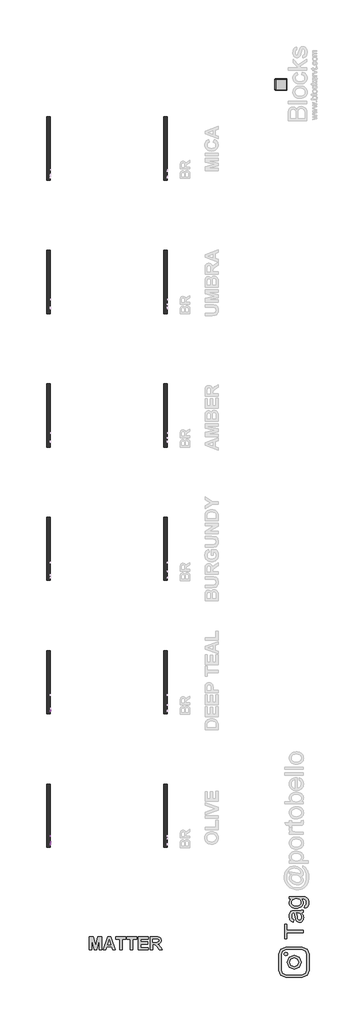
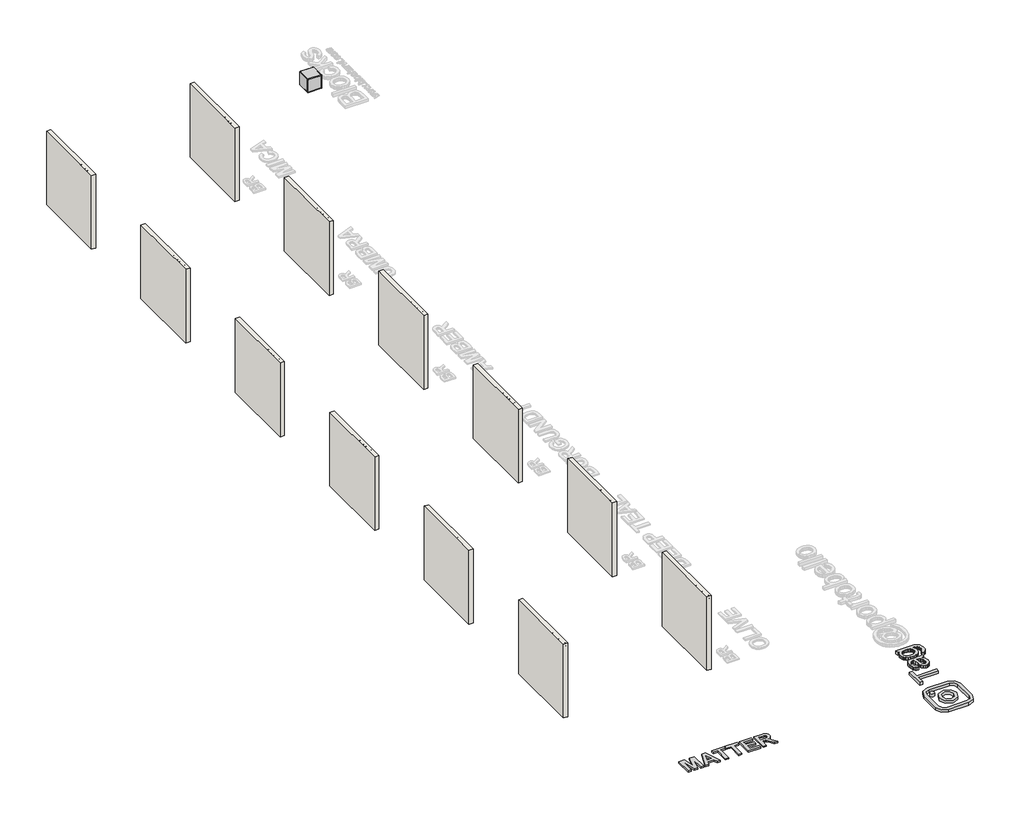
# One storey, part 1 of 10: 12 walls, 7 proxies, 1 furniture element.
"""IFC4 building model written with IfcOpenShell, lengths in millimetres."""

from ifc_helpers import new_model, si_unit, frame, origin, origin_with_axes, place, context, project, spatial, polyline, outline, extrude, transform, mapped, element, save
from components import generic_models_d67f6705, branco_22256ad2

model = new_model("IFC4")

# Units and contexts
model_context = context("Model", 3, world=origin())
ifc_project = project(units=[si_unit("LENGTHUNIT", "METRE", prefix="MILLI")], contexts=[model_context])

# Site, building, storey
site = spatial("IfcSite", under=ifc_project)
building = spatial("IfcBuilding", under=site)
storey = spatial("IfcBuildingStorey", under=building, Name="PORTOBELLO - SHOWROOM", Elevation=0.0)

# Proxies
placement = place(None, origin())
generic_models_shape = generic_models_d67f6705(model_context)
element("IfcBuildingElementProxy", 1, Name="Blks_Instagram1 : Único", ObjectType="Blks_Instagram1 : Único", at=placement, inside=storey, context=model_context, shape_type="MappedRepresentation", body=[
    mapped(generic_models_shape, transform((-1693.7078891, -12631.2406298, 0.0), x_axis=(-1.0, 0.0, 0.0), y_axis=(0.0, -1.0, 0.0), z_axis=(0.0, 0.0, 1.0))),
])
element("IfcBuildingElementProxy", 2, Name="10mm Arial", ObjectType="10mm Arial", at=placement, inside=storey, context=model_context, shape_type="SweptSolid", body=[
    extrude(outline(polyline([(-1934.9777985, 2518.4745677), (-1934.9777985, 2618.9308778), (-1900.3233145, 2618.9308778), (-1882.3951986, 2617.4838753), (-1867.6308679, 2610.2979137), (-1855.7360167, 2593.1300872), (-1851.7874166, 2569.242283), (-1854.4606925, 2548.9719851), (-1861.327823, 2534.3425444), (-1870.5003475, 2525.2313336), (-1882.5055632, 2520.1913503), (-1898.6555828, 2518.4745677), (-1934.9777985, 2518.4745677)]), holes=[polyline([(-1922.4207597, 2531.0316064), (-1900.2006872, 2531.0316064), (-1884.0384049, 2532.8464909), (-1874.7187277, 2537.9723134), (-1867.0790449, 2550.443513), (-1864.3444554, 2569.4384867), (-1865.684159, 2583.1236969), (-1869.7032698, 2593.2281891), (-1882.7385552, 2604.3627508), (-1900.5440437, 2606.373839), (-1922.4207597, 2606.373839), (-1922.4207597, 2531.0316064)])]), frame((-12116.0080774, 0.0, 0.0), z_axis=(1.0, 0.0, 0.0), x_axis=(0.0, 1.0, 0.0)), (0.0, 0.0, 1.0), 20.0),
    extrude(outline(polyline([(-1784.4404861, 2540.4493855), (-1772.128702, 2538.8797557), (-1776.5647457, 2529.602998), (-1783.6434084, 2522.6684224), (-1793.2052746, 2518.345809), (-1805.0909287, 2516.9049378), (-1819.8246026, 2519.391207), (-1831.1614994, 2526.8500144), (-1838.3903806, 2538.7969822), (-1840.8000077, 2554.7477324), (-1838.3658552, 2571.2349771), (-1831.0633976, 2583.5651553), (-1819.8797849, 2591.253889), (-1805.8021672, 2593.8168003), (-1792.1629423, 2591.2600204), (-1781.2644382, 2583.5896808), (-1774.1183304, 2571.2840281), (-1771.7362945, 2554.8213088), (-1771.8098709, 2551.4367944), (-1828.2429689, 2551.4367944), (-1826.0693995, 2542.0374095), (-1821.0202191, 2535.1273593), (-1813.7330899, 2530.8783223), (-1804.8456741, 2529.4619766), (-1792.53389, 2532.0862015), (-1784.4404861, 2540.4493855)]), holes=[polyline([(-1828.2429689, 2563.9938332), (-1784.2933333, 2563.9938332), (-1789.3210539, 2575.3736496), (-1796.6419056, 2579.7882335), (-1805.8512182, 2581.2597615), (-1821.3145247, 2576.5631347), (-1826.1797641, 2571.0724959), (-1828.2429689, 2563.9938332)])]), frame((-12116.0080774, 0.0, 0.0), z_axis=(1.0, 0.0, 0.0), x_axis=(0.0, 1.0, 0.0)), (0.0, 0.0, 1.0), 20.0),
    extrude(outline(polyline([(-1707.5286236, 2540.4493855), (-1695.2168395, 2538.8797557), (-1699.6528832, 2529.602998), (-1706.7315459, 2522.6684224), (-1716.2934121, 2518.345809), (-1728.1790663, 2516.9049378), (-1742.9127402, 2519.391207), (-1754.249637, 2526.8500144), (-1761.4785182, 2538.7969822), (-1763.8881453, 2554.7477324), (-1761.4539927, 2571.2349771), (-1754.1515351, 2583.5651553), (-1742.9679225, 2591.253889), (-1728.8903048, 2593.8168003), (-1715.2510798, 2591.2600204), (-1704.3525757, 2583.5896808), (-1697.206468, 2571.2840281), (-1694.824432, 2554.8213088), (-1694.8980084, 2551.4367944), (-1751.3311065, 2551.4367944), (-1749.157537, 2542.0374095), (-1744.1083567, 2535.1273593), (-1736.8212275, 2530.8783223), (-1727.9338116, 2529.4619766), (-1715.6220275, 2532.0862015), (-1707.5286236, 2540.4493855)]), holes=[polyline([(-1751.3311065, 2563.9938332), (-1707.3814708, 2563.9938332), (-1712.4091914, 2575.3736496), (-1719.7300431, 2579.7882335), (-1728.9393557, 2581.2597615), (-1744.4026622, 2576.5631347), (-1749.2679016, 2571.0724959), (-1751.3311065, 2563.9938332)])]), frame((-12116.0080774, 0.0, 0.0), z_axis=(1.0, 0.0, 0.0), x_axis=(0.0, 1.0, 0.0)), (0.0, 0.0, 1.0), 20.0),
    extrude(outline(polyline([(-1682.2673933, 2490.2212304), (-1682.2673933, 2592.2471704), (-1669.7103545, 2592.2471704), (-1669.7103545, 2579.9353863), (-1661.0283394, 2590.3464468), (-1649.3051665, 2593.8168003), (-1633.3881388, 2588.9607579), (-1622.9893411, 2575.2755477), (-1619.4821994, 2555.9249548), (-1623.4430622, 2535.5810804), (-1634.945506, 2521.724192), (-1650.8257454, 2516.9049378), (-1661.7518407, 2520.1300366), (-1669.7103545, 2528.2847542), (-1669.7103545, 2490.2212304), (-1682.2673933, 2490.2212304)]), holes=[polyline([(-1669.7103545, 2554.7722579), (-1668.3522568, 2543.5150688), (-1664.2779637, 2535.6423941), (-1658.2661588, 2531.007081), (-1651.0955255, 2529.4619766), (-1643.8083964, 2531.0622633), (-1637.6433072, 2535.8631233), (-1633.4402555, 2544.0239722), (-1632.0392382, 2555.7042256), (-1633.4065329, 2566.900101), (-1637.5084172, 2574.8831403), (-1643.5110251, 2579.6656062), (-1650.5804907, 2581.2597615), (-1657.6775476, 2579.5644386), (-1663.9100817, 2574.4784701), (-1668.2602863, 2566.1612713), (-1669.7103545, 2554.7722579)])]), frame((-12116.0080774, 0.0, 0.0), z_axis=(1.0, 0.0, 0.0), x_axis=(0.0, 1.0, 0.0)), (0.0, 0.0, 1.0), 20.0),
    extrude(outline(polyline([(-1539.4310773, 2518.4745677), (-1539.4310773, 2606.373839), (-1572.393304, 2606.373839), (-1572.393304, 2618.9308778), (-1493.9118117, 2618.9308778), (-1493.9118117, 2606.373839), (-1526.8740385, 2606.373839), (-1526.8740385, 2518.4745677), (-1539.4310773, 2518.4745677)])), frame((-12116.0080774, 0.0, 0.0), z_axis=(1.0, 0.0, 0.0), x_axis=(0.0, 1.0, 0.0)), (0.0, 0.0, 1.0), 20.0),
    extrude(outline(polyline([(-1429.7041408, 2540.4493855), (-1417.3923567, 2538.8797557), (-1421.8284005, 2529.602998), (-1428.9070632, 2522.6684224), (-1438.4689294, 2518.345809), (-1450.3545835, 2516.9049378), (-1465.0882574, 2519.391207), (-1476.4251542, 2526.8500144), (-1483.6540354, 2538.7969822), (-1486.0636625, 2554.7477324), (-1483.62951, 2571.2349771), (-1476.3270524, 2583.5651553), (-1465.1434397, 2591.253889), (-1451.065822, 2593.8168003), (-1437.4265971, 2591.2600204), (-1426.5280929, 2583.5896808), (-1419.3819852, 2571.2840281), (-1416.9999493, 2554.8213088), (-1417.0735257, 2551.4367944), (-1473.5066237, 2551.4367944), (-1471.3330543, 2542.0374095), (-1466.2838739, 2535.1273593), (-1458.9967447, 2530.8783223), (-1450.1093288, 2529.4619766), (-1437.7975447, 2532.0862015), (-1429.7041408, 2540.4493855)]), holes=[polyline([(-1473.5066237, 2563.9938332), (-1429.556988, 2563.9938332), (-1434.5847086, 2575.3736496), (-1441.9055603, 2579.7882335), (-1451.114873, 2581.2597615), (-1466.5781795, 2576.5631347), (-1471.4434189, 2571.0724959), (-1473.5066237, 2563.9938332)])]), frame((-12116.0080774, 0.0, 0.0), z_axis=(1.0, 0.0, 0.0), x_axis=(0.0, 1.0, 0.0)), (0.0, 0.0, 1.0), 20.0),
    extrude(outline(polyline([(-1357.3540151, 2527.8923467), (-1369.5309092, 2519.3820099), (-1382.9831275, 2516.9049378), (-1393.4769614, 2518.3948599), (-1401.2178117, 2522.8646261), (-1405.9910806, 2529.6520489), (-1407.5821702, 2538.0949407), (-1405.1786745, 2548.0277546), (-1398.8633669, 2555.2382417), (-1390.0709872, 2559.3585201), (-1379.2062056, 2561.246981), (-1357.4275915, 2565.563463), (-1357.3540151, 2568.3593662), (-1360.8121059, 2577.6299925), (-1374.6935198, 2581.2597615), (-1387.3977114, 2578.8440031), (-1393.4555016, 2570.2723526), (-1406.0125404, 2571.8419824), (-1400.5801496, 2584.1047156), (-1389.6417916, 2591.2906772), (-1373.0748391, 2593.8168003), (-1357.8567872, 2591.5849828), (-1349.2606112, 2585.9809138), (-1345.410113, 2577.4583142), (-1344.7969764, 2566.4709053), (-1344.7969764, 2550.8481832), (-1344.1593142, 2529.0327809), (-1341.6577167, 2518.4745677), (-1354.2147554, 2518.4745677), (-1357.3540151, 2527.8923467)]), holes=[polyline([(-1357.3540151, 2553.0064243), (-1377.6120503, 2549.1559261), (-1388.4155182, 2547.1203124), (-1393.3083488, 2543.8093744), (-1395.0251314, 2538.9778575), (-1391.2849978, 2532.1843033), (-1380.3098516, 2529.4619766), (-1367.6056601, 2532.4663462), (-1359.4141543, 2539.738147), (-1357.4275915, 2549.4502317), (-1357.3540151, 2553.0064243)])]), frame((-12116.0080774, 0.0, 0.0), z_axis=(1.0, 0.0, 0.0), x_axis=(0.0, 1.0, 0.0)), (0.0, 0.0, 1.0), 20.0),
    extrude(outline(polyline([(-12096.0080774, -1314.9740093), (-12096.0080774, -1327.531048), (-12116.0080774, -1327.531048), (-12116.0080774, -1314.9740093), (-12096.0080774, -1314.9740093)])), frame((0.0, 0.0, 2518.4745677), z_axis=(0.0, 0.0, 1.0), x_axis=(1.0, 0.0, 0.0)), (0.0, 0.0, 1.0), 100.4563101),
])
element("IfcBuildingElementProxy", 3, Name="10mm Arial", ObjectType="10mm Arial", at=placement, inside=storey, context=model_context, shape_type="SweptSolid", body=[
    extrude(outline(polyline([(-7639.686688, 2567.3783476), (-7636.3389619, 2589.5922887), (-7626.2957834, 2606.3983645), (-7610.9612356, 2616.9749719), (-7591.7394013, 2620.5005077), (-7578.5630945, 2618.8450387), (-7566.7479511, 2613.8786317), (-7556.9377646, 2605.9507747), (-7549.7763284, 2595.4109556), (-7545.3985327, 2582.7680777), (-7543.9392674, 2568.5310445), (-7545.4751747, 2554.1039389), (-7550.0828967, 2541.2832514), (-7557.5079817, 2530.7250381), (-7567.4959778, 2523.0853553), (-7579.2099537, 2518.4500422), (-7591.8129777, 2516.9049378), (-7605.1916196, 2518.6125234), (-7617.0742081, 2523.7352802), (-7626.8598691, 2531.81029), (-7633.9477289, 2542.3746346), (-7639.686688, 2567.3783476)]), holes=[polyline([(-7627.1296493, 2567.2557202), (-7624.6188546, 2551.5410277), (-7617.0864708, 2539.5664687), (-7605.7649024, 2531.9880996), (-7591.8865541, 2529.4619766), (-7577.8058707, 2532.0126251), (-7566.4659082, 2539.6645706), (-7558.9887067, 2552.0070115), (-7556.4963062, 2568.6291463), (-7560.7637373, 2589.3531654), (-7573.234937, 2603.0751638), (-7591.6658249, 2607.9434689), (-7605.1732255, 2605.5982212), (-7616.6572751, 2598.562478), (-7624.5115557, 2586.0452931), (-7627.1296493, 2567.2557202)])]), frame((-12116.0080774, 0.0, 0.0), z_axis=(1.0, 0.0, 0.0), x_axis=(0.0, 1.0, 0.0)), (0.0, 0.0, 1.0), 20.0),
    extrude(outline(polyline([(-12096.0080774, -7515.6859302), (-12096.0080774, -7528.2429689), (-12116.0080774, -7528.2429689), (-12116.0080774, -7515.6859302), (-12096.0080774, -7515.6859302)])), frame((0.0, 0.0, 2518.4745677), z_axis=(0.0, 0.0, 1.0), x_axis=(1.0, 0.0, 0.0)), (0.0, 0.0, 1.0), 100.4563101),
    extrude(outline(polyline([(-12096.0080774, -7484.2933333), (-12096.0080774, -7496.850372), (-12116.0080774, -7496.850372), (-12116.0080774, -7484.2933333), (-12096.0080774, -7484.2933333)])), frame((0.0, 0.0, 2518.4745677), z_axis=(0.0, 0.0, 1.0), x_axis=(1.0, 0.0, 0.0)), (0.0, 0.0, 1.0), 73.7726028),
    extrude(outline(polyline([(-12096.0080774, -7484.2933333), (-12096.0080774, -7496.850372), (-12116.0080774, -7496.850372), (-12116.0080774, -7484.2933333), (-12096.0080774, -7484.2933333)])), frame((0.0, 0.0, 2606.373839), z_axis=(0.0, 0.0, 1.0), x_axis=(1.0, 0.0, 0.0)), (0.0, 0.0, 1.0), 12.5570388),
    extrude(outline(polyline([(-7447.30893, 2518.4745677), (-7473.3059243, 2592.2471704), (-7460.037647, 2592.2471704), (-7444.2922976, 2548.0522801), (-7439.5588826, 2533.1898475), (-7434.9235695, 2547.2184142), (-7419.1046437, 2592.2471704), (-7405.811841, 2592.2471704), (-7431.4409533, 2518.4745677), (-7447.30893, 2518.4745677)])), frame((-12116.0080774, 0.0, 0.0), z_axis=(1.0, 0.0, 0.0), x_axis=(0.0, 1.0, 0.0)), (0.0, 0.0, 1.0), 20.0),
    extrude(outline(polyline([(-7343.1737999, 2540.4493855), (-7330.8620158, 2538.8797557), (-7335.2980595, 2529.602998), (-7342.3767223, 2522.6684224), (-7351.9385884, 2518.345809), (-7363.8242426, 2516.9049378), (-7378.5579165, 2519.391207), (-7389.8948133, 2526.8500144), (-7397.1236945, 2538.7969822), (-7399.5333216, 2554.7477324), (-7397.099169, 2571.2349771), (-7389.7967114, 2583.5651553), (-7378.6130988, 2591.253889), (-7364.5354811, 2593.8168003), (-7350.8962561, 2591.2600204), (-7339.997752, 2583.5896808), (-7332.8516443, 2571.2840281), (-7330.4696083, 2554.8213088), (-7330.5431847, 2551.4367944), (-7386.9762828, 2551.4367944), (-7384.8027133, 2542.0374095), (-7379.753533, 2535.1273593), (-7372.4664038, 2530.8783223), (-7363.5789879, 2529.4619766), (-7351.2672038, 2532.0862015), (-7343.1737999, 2540.4493855)]), holes=[polyline([(-7386.9762828, 2563.9938332), (-7343.0266471, 2563.9938332), (-7348.0543677, 2575.3736496), (-7355.3752194, 2579.7882335), (-7364.584532, 2581.2597615), (-7380.0478386, 2576.5631347), (-7384.9130779, 2571.0724959), (-7386.9762828, 2563.9938332)])]), frame((-12116.0080774, 0.0, 0.0), z_axis=(1.0, 0.0, 0.0), x_axis=(0.0, 1.0, 0.0)), (0.0, 0.0, 1.0), 20.0),
])
element("IfcBuildingElementProxy", 4, Name="10mm Arial", ObjectType="10mm Arial", at=placement, inside=storey, context=model_context, shape_type="SweptSolid", body=[
    extrude(outline(polyline([(-7639.686688, 2410.158275), (-7627.1296493, 2411.7279049), (-7620.8020789, 2398.7907214), (-7607.6809544, 2394.4619766), (-7598.6801083, 2395.9672271), (-7591.935605, 2400.4829786), (-7587.7233562, 2407.4880649), (-7586.3192733, 2416.4613199), (-7591.5799858, 2431.3728034), (-7598.1865333, 2435.4746877), (-7607.4847507, 2436.8419824), (-7618.5089478, 2434.6592159), (-7625.5600194, 2428.9938332), (-7638.1170582, 2430.563463), (-7627.1296493, 2482.361248), (-7578.471124, 2482.361248), (-7578.471124, 2469.8042092), (-7616.9761062, 2469.8042092), (-7622.3717088, 2442.1394832), (-7613.4015195, 2447.5841367), (-7604.0021345, 2449.3990212), (-7592.2666988, 2447.1488097), (-7582.517826, 2440.3981751), (-7575.9511324, 2430.1097419), (-7573.7622345, 2417.2461348), (-7575.7304032, 2404.6890961), (-7581.6349092, 2393.9469418), (-7592.9411492, 2384.9154388), (-7607.7300054, 2381.9049378), (-7620.0632493, 2383.839384), (-7629.8887642, 2389.6427224), (-7636.6240704, 2398.6405029), (-7639.686688, 2410.158275)])), frame((-12116.0080774, 0.0, 0.0), z_axis=(1.0, 0.0, 0.0), x_axis=(0.0, 1.0, 0.0)), (0.0, 0.0, 1.0), 20.0),
    extrude(outline(polyline([(-7556.4963062, 2383.4745677), (-7556.4963062, 2396.0316064), (-7543.9392674, 2396.0316064), (-7543.9392674, 2383.4745677), (-7546.1956103, 2370.635486), (-7553.3570465, 2363.0693797), (-7556.4963062, 2367.7782692), (-7551.8855185, 2373.1983973), (-7550.2423123, 2383.4745677), (-7556.4963062, 2383.4745677)])), frame((-12116.0080774, 0.0, 0.0), z_axis=(1.0, 0.0, 0.0), x_axis=(0.0, 1.0, 0.0)), (0.0, 0.0, 1.0), 20.0),
    extrude(outline(polyline([(-7482.7237034, 2383.4745677), (-7482.7237034, 2407.0190154), (-7528.2429689, 2407.0190154), (-7528.2429689, 2419.5760541), (-7479.5844437, 2482.361248), (-7470.1666646, 2482.361248), (-7470.1666646, 2419.5760541), (-7457.6096259, 2419.5760541), (-7457.6096259, 2407.0190154), (-7470.1666646, 2407.0190154), (-7470.1666646, 2383.4745677), (-7482.7237034, 2383.4745677)]), holes=[polyline([(-7482.7237034, 2419.5760541), (-7482.7237034, 2458.3753419), (-7512.7919252, 2419.5760541), (-7482.7237034, 2419.5760541)])]), frame((-12116.0080774, 0.0, 0.0), z_axis=(1.0, 0.0, 0.0), x_axis=(0.0, 1.0, 0.0)), (0.0, 0.0, 1.0), 20.0),
    extrude(outline(polyline([(-7451.3311065, 2383.4745677), (-7424.5002463, 2420.5815982), (-7449.7614766, 2457.2471704), (-7434.7028403, 2457.2471704), (-7422.5136835, 2439.5643092), (-7416.7992499, 2431.2501761), (-7411.8451057, 2438.0682557), (-7397.9636917, 2457.2471704), (-7382.8560045, 2457.2471704), (-7409.392559, 2420.5570728), (-7383.8370231, 2383.4745677), (-7398.9201849, 2383.4745677), (-7414.3221778, 2405.792742), (-7417.1180809, 2409.8884949), (-7436.2234192, 2383.4745677), (-7451.3311065, 2383.4745677)])), frame((-12116.0080774, 0.0, 0.0), z_axis=(1.0, 0.0, 0.0), x_axis=(0.0, 1.0, 0.0)), (0.0, 0.0, 1.0), 20.0),
    extrude(outline(polyline([(-7328.8999785, 2383.4745677), (-7341.4570173, 2383.4745677), (-7341.4570173, 2461.7598562), (-7353.3518684, 2453.2863076), (-7366.5710948, 2446.9464746), (-7366.5710948, 2458.8168003), (-7348.1647323, 2470.5644987), (-7336.9933824, 2483.9308778), (-7328.8999785, 2483.9308778), (-7328.8999785, 2383.4745677)])), frame((-12116.0080774, 0.0, 0.0), z_axis=(1.0, 0.0, 0.0), x_axis=(0.0, 1.0, 0.0)), (0.0, 0.0, 1.0), 20.0),
    extrude(outline(polyline([(-7251.988116, 2383.4745677), (-7264.5451548, 2383.4745677), (-7264.5451548, 2461.7598562), (-7276.440006, 2453.2863076), (-7289.6592323, 2446.9464746), (-7289.6592323, 2458.8168003), (-7271.2528699, 2470.5644987), (-7260.0815199, 2483.9308778), (-7251.988116, 2483.9308778), (-7251.988116, 2383.4745677)])), frame((-12116.0080774, 0.0, 0.0), z_axis=(1.0, 0.0, 0.0), x_axis=(0.0, 1.0, 0.0)), (0.0, 0.0, 1.0), 20.0),
    extrude(outline(polyline([(-7215.8866296, 2383.4745677), (-7215.8866296, 2396.0316064), (-7203.3295908, 2396.0316064), (-7203.3295908, 2383.4745677), (-7205.5859337, 2370.635486), (-7212.7473699, 2363.0693797), (-7215.8866296, 2367.7782692), (-7211.2758419, 2373.1983973), (-7209.6326357, 2383.4745677), (-7215.8866296, 2383.4745677)])), frame((-12116.0080774, 0.0, 0.0), z_axis=(1.0, 0.0, 0.0), x_axis=(0.0, 1.0, 0.0)), (0.0, 0.0, 1.0), 20.0),
    extrude(outline(polyline([(-7182.9244028, 2410.158275), (-7170.367364, 2411.7279049), (-7164.0397937, 2398.7907214), (-7150.9186692, 2394.4619766), (-7141.9178231, 2395.9672271), (-7135.1733198, 2400.4829786), (-7130.961071, 2407.4880649), (-7129.556988, 2416.4613199), (-7134.8177006, 2431.3728034), (-7141.4242481, 2435.4746877), (-7150.7224655, 2436.8419824), (-7161.7466626, 2434.6592159), (-7168.7977342, 2428.9938332), (-7181.354773, 2430.563463), (-7170.367364, 2482.361248), (-7121.7088388, 2482.361248), (-7121.7088388, 2469.8042092), (-7160.213821, 2469.8042092), (-7165.6094236, 2442.1394832), (-7156.6392343, 2447.5841367), (-7147.2398493, 2449.3990212), (-7135.5044136, 2447.1488097), (-7125.7555408, 2440.3981751), (-7119.1888471, 2430.1097419), (-7116.9999493, 2417.2461348), (-7118.9681179, 2404.6890961), (-7124.872624, 2393.9469418), (-7136.178864, 2384.9154388), (-7150.9677202, 2381.9049378), (-7163.3009641, 2383.839384), (-7173.126479, 2389.6427224), (-7179.8617852, 2398.6405029), (-7182.9244028, 2410.158275)])), frame((-12116.0080774, 0.0, 0.0), z_axis=(1.0, 0.0, 0.0), x_axis=(0.0, 1.0, 0.0)), (0.0, 0.0, 1.0), 20.0),
])
element("IfcBuildingElementProxy", 5, Name="10mm Arial Narrow", ObjectType="10mm Arial Narrow", at=placement, inside=storey, context=model_context, shape_type="SweptSolid", body=[
    extrude(outline(polyline([(-7273.0722036, 2518.4745677), (-7273.0722036, 2615.7916181), (-7242.8323036, 2615.7916181), (-7227.0869542, 2613.9767336), (-7216.0014434, 2604.8164719), (-7211.8566396, 2588.3721467), (-7213.5826193, 2576.7041561), (-7218.7605584, 2567.402873), (-7228.1752718, 2561.314426), (-7242.6115744, 2559.2849437), (-7263.6544246, 2559.2849437), (-7263.6544246, 2518.4745677), (-7273.0722036, 2518.4745677)]), holes=[polyline([(-7263.6544246, 2570.2723526), (-7241.4588775, 2570.2723526), (-7226.130461, 2574.6501483), (-7221.2744187, 2587.857112), (-7223.6656517, 2597.6795612), (-7229.441399, 2603.2836303), (-7241.6796067, 2604.8042092), (-7263.6544246, 2604.8042092), (-7263.6544246, 2570.2723526)])]), frame((-12116.0080774, 0.0, 0.0), z_axis=(1.0, 0.0, 0.0), x_axis=(0.0, 1.0, 0.0)), (0.0, 0.0, 1.0), 20.0),
    extrude(outline(polyline([(-7204.0084904, 2553.7912392), (-7202.1200295, 2569.8216971), (-7196.4546468, 2581.3701261), (-7187.895259, 2588.350687), (-7177.324783, 2590.6775406), (-7166.8769344, 2588.350687), (-7158.2930211, 2581.3701261), (-7152.554062, 2570.0056381), (-7150.6410756, 2554.5270032), (-7152.5203395, 2537.9447223), (-7158.1581311, 2526.2123523), (-7166.7083218, 2519.2317914), (-7177.324783, 2516.9049378), (-7187.8186169, 2519.2379228), (-7196.3933331, 2526.2368778), (-7202.1047011, 2537.7914381), (-7204.0084904, 2553.7912392)]), holes=[polyline([(-7194.5907113, 2553.8157647), (-7193.3307155, 2541.6879216), (-7189.550728, 2533.1162711), (-7183.906805, 2528.0211054), (-7177.0550029, 2526.3227169), (-7170.5618857, 2528.0364339), (-7165.0620498, 2533.1775847), (-7161.3096535, 2541.7645636), (-7160.0588547, 2553.8157647), (-7161.3188505, 2565.9068196), (-7165.098838, 2574.4662073), (-7170.742761, 2579.561373), (-7177.5945631, 2581.2597615), (-7184.1336656, 2579.5521759), (-7189.6243044, 2574.4294191), (-7193.3491096, 2565.8608343), (-7194.5907113, 2553.8157647)])]), frame((-12116.0080774, 0.0, 0.0), z_axis=(1.0, 0.0, 0.0), x_axis=(0.0, 1.0, 0.0)), (0.0, 0.0, 1.0), 20.0),
    extrude(outline(polyline([(-7081.5773624, 2526.3227169), (-7080.0077326, 2516.9049378), (-7087.1201178, 2516.9049378), (-7095.1154198, 2518.9528143), (-7099.2847491, 2524.5568833), (-7100.4129206, 2538.7080774), (-7100.4129206, 2579.6901317), (-7108.2610698, 2579.6901317), (-7108.2610698, 2582.8293914), (-7109.8306996, 2578.1205018), (-7117.1392886, 2579.6901317), (-7123.0131378, 2577.4460515), (-7126.7532714, 2571.1797948), (-7128.6662578, 2556.2928368), (-7128.6662578, 2518.4745677), (-7138.0840369, 2518.4745677), (-7138.0840369, 2589.1079107), (-7128.6662578, 2589.1079107), (-7128.6662578, 2579.7391826), (-7122.6329931, 2588.5192995), (-7116.4525756, 2590.6775406), (-7108.2610698, 2589.1079107), (-7100.4129206, 2589.1079107), (-7100.4129206, 2604.8042092), (-7090.9951415, 2612.6523584), (-7090.9951415, 2589.1079107), (-7081.5773624, 2589.1079107), (-7081.5773624, 2579.6901317), (-7090.9951415, 2579.6901317), (-7090.9951415, 2536.5498364), (-7090.1612756, 2528.8243145), (-7085.6976408, 2526.3227169), (-7081.5773624, 2526.3227169)])), frame((-12116.0080774, 0.0, 0.0), z_axis=(1.0, 0.0, 0.0), x_axis=(0.0, 1.0, 0.0)), (0.0, 0.0, 1.0), 20.0),
    extrude(outline(polyline([(-7075.298843, 2553.7912392), (-7073.4103821, 2569.8216971), (-7067.7449994, 2581.3701261), (-7059.1856116, 2588.350687), (-7048.6151356, 2590.6775406), (-7038.167287, 2588.350687), (-7029.5833738, 2581.3701261), (-7023.8444146, 2570.0056381), (-7021.9314283, 2554.5270032), (-7023.8106921, 2537.9447223), (-7029.4484837, 2526.2123523), (-7037.9986744, 2519.2317914), (-7048.6151356, 2516.9049378), (-7059.1089696, 2519.2379228), (-7067.6836857, 2526.2368778), (-7073.3950537, 2537.7914381), (-7075.298843, 2553.7912392)]), holes=[polyline([(-7065.8810639, 2553.8157647), (-7064.6210681, 2541.6879216), (-7060.8410806, 2533.1162711), (-7055.1971577, 2528.0211054), (-7048.3453555, 2526.3227169), (-7041.8522383, 2528.0364339), (-7036.3524025, 2533.1775847), (-7032.6000061, 2541.7645636), (-7031.3492073, 2553.8157647), (-7032.6092032, 2565.9068196), (-7036.3891907, 2574.4662073), (-7042.0331136, 2579.561373), (-7048.8849158, 2581.2597615), (-7055.4240182, 2579.5521759), (-7060.914657, 2574.4294191), (-7064.6394622, 2565.8608343), (-7065.8810639, 2553.8157647)])]), frame((-12116.0080774, 0.0, 0.0), z_axis=(1.0, 0.0, 0.0), x_axis=(0.0, 1.0, 0.0)), (0.0, 0.0, 1.0), 20.0),
    extrude(outline(polyline([(-6999.9566104, 2518.4745677), (-7009.3743895, 2518.4745677), (-7009.3743895, 2615.7916181), (-6999.9566104, 2615.7916181), (-6999.9566104, 2581.5785926), (-6992.807437, 2588.4211977), (-6983.9169554, 2590.6775406), (-6971.4702813, 2586.6185759), (-6962.5062233, 2574.3190545), (-6959.1462344, 2554.3307995), (-6961.0132355, 2538.4321659), (-6966.6142389, 2526.641548), (-6974.7045771, 2519.3390904), (-6984.0395828, 2516.9049378), (-6993.0649544, 2519.4310609), (-6999.9566104, 2526.9358536), (-6999.9566104, 2518.4745677)]), holes=[polyline([(-6999.9566104, 2554.3307995), (-6997.9455222, 2537.6657451), (-6992.255614, 2529.2289847), (-6984.0886337, 2526.3227169), (-6978.3466089, 2528.0517623), (-6973.2851658, 2533.2388984), (-6968.5640135, 2553.938392), (-6973.1134875, 2574.6501483), (-6978.181062, 2579.6073582), (-6984.2848374, 2581.2597615), (-6990.0605847, 2579.5307161), (-6995.1741445, 2574.34358), (-6999.9566104, 2554.3307995)])]), frame((-12116.0080774, 0.0, 0.0), z_axis=(1.0, 0.0, 0.0), x_axis=(0.0, 1.0, 0.0)), (0.0, 0.0, 1.0), 20.0),
    extrude(outline(polyline([(-6908.9180793, 2540.4493855), (-6899.5003003, 2538.8797557), (-6908.6973501, 2522.4476932), (-6925.1784635, 2516.9049378), (-6936.3804703, 2519.2379228), (-6945.2157695, 2526.2368778), (-6950.9547287, 2537.6442853), (-6952.867715, 2553.202628), (-6950.9455316, 2569.3066623), (-6945.1789813, 2581.0758205), (-6936.4693751, 2588.2771106), (-6925.7180238, 2590.6775406), (-6915.3958681, 2588.359884), (-6906.9437793, 2581.4069143), (-6901.3059877, 2570.0638861), (-6899.4267239, 2554.5760541), (-6899.5003003, 2551.4367944), (-6943.449936, 2551.4367944), (-6937.6496632, 2532.6502872), (-6931.9199011, 2527.9046095), (-6925.0558362, 2526.3227169), (-6915.2211242, 2529.854384), (-6908.9180793, 2540.4493855)]), holes=[polyline([(-6942.8122738, 2560.8545735), (-6908.9180793, 2560.8545735), (-6913.0383577, 2574.6378856), (-6918.6669522, 2579.6042925), (-6925.6444474, 2581.2597615), (-6937.4411967, 2575.7415316), (-6942.8122738, 2560.8545735)])]), frame((-12116.0080774, 0.0, 0.0), z_axis=(1.0, 0.0, 0.0), x_axis=(0.0, 1.0, 0.0)), (0.0, 0.0, 1.0), 20.0),
    extrude(outline(polyline([(-12096.0080774, -6877.5254824), (-12096.0080774, -6886.9432615), (-12116.0080774, -6886.9432615), (-12116.0080774, -6877.5254824), (-12096.0080774, -6877.5254824)])), frame((0.0, 0.0, 2518.4745677), z_axis=(0.0, 0.0, 1.0), x_axis=(1.0, 0.0, 0.0)), (0.0, 0.0, 1.0), 97.3170505),
    extrude(outline(polyline([(-12096.0080774, -6852.4114049), (-12096.0080774, -6861.829184), (-12116.0080774, -6861.829184), (-12116.0080774, -6852.4114049), (-12096.0080774, -6852.4114049)])), frame((0.0, 0.0, 2518.4745677), z_axis=(0.0, 0.0, 1.0), x_axis=(1.0, 0.0, 0.0)), (0.0, 0.0, 1.0), 97.3170505),
    extrude(outline(polyline([(-6841.423996, 2553.7912392), (-6839.535535, 2569.8216971), (-6833.8701523, 2581.3701261), (-6825.3107646, 2588.350687), (-6814.7402886, 2590.6775406), (-6804.2924399, 2588.350687), (-6795.7085267, 2581.3701261), (-6789.9695676, 2570.0056381), (-6788.0565812, 2554.5270032), (-6789.935845, 2537.9447223), (-6795.5736366, 2526.2123523), (-6804.1238273, 2519.2317914), (-6814.7402886, 2516.9049378), (-6825.2341225, 2519.2379228), (-6833.8088387, 2526.2368778), (-6839.5202066, 2537.7914381), (-6841.423996, 2553.7912392)]), holes=[polyline([(-6832.0062169, 2553.8157647), (-6830.746221, 2541.6879216), (-6826.9662335, 2533.1162711), (-6821.3223106, 2528.0211054), (-6814.4705084, 2526.3227169), (-6807.9773912, 2528.0364339), (-6802.4775554, 2533.1775847), (-6798.725159, 2541.7645636), (-6797.4743603, 2553.8157647), (-6798.7343561, 2565.9068196), (-6802.5143436, 2574.4662073), (-6808.1582665, 2579.561373), (-6815.0100687, 2581.2597615), (-6821.5491712, 2579.5521759), (-6827.0398099, 2574.4294191), (-6830.7646151, 2565.8608343), (-6832.0062169, 2553.8157647)])]), frame((-12116.0080774, 0.0, 0.0), z_axis=(1.0, 0.0, 0.0), x_axis=(0.0, 1.0, 0.0)), (0.0, 0.0, 1.0), 20.0),
])
element("IfcBuildingElementProxy", 6, Name="550mm Arial", ObjectType="550mm Arial", at=placement, inside=storey, context=model_context, shape_type="SweptSolid", body=[
    extrude(outline(polyline([(-10445.9820185, -12102.6873012), (-10445.9820185, -11541.5446312), (-10263.1096305, -11541.5446312), (-10174.31771, -11924.2684265), (-10085.8041341, -11541.5446312), (-9902.6534015, -11541.5446312), (-9902.6534015, -12102.6873012), (-10009.5377196, -12102.6873012), (-10013.9912329, -11660.9544553), (-10111.6901799, -12102.6873012), (-10236.6668956, -12102.6873012), (-10334.6441871, -11660.9544553), (-10339.0977004, -12102.6873012), (-10445.9820185, -12102.6873012)])), origin_with_axes(), (0.0, 0.0, 1.0), 50.0),
    extrude(outline(polyline([(-9323.6966785, -12102.6873012), (-9436.0087159, -12102.6873012), (-9479.9871593, -11977.9889301), (-9691.8073834, -11977.9889301), (-9735.2291376, -12102.6873012), (-9849.2112425, -12102.6873012), (-9644.6279774, -11541.5446312), (-9530.5067003, -11541.5446312), (-9323.6966785, -12102.6873012)]), holes=[polyline([(-9514.2235424, -11880.0116385), (-9586.4539605, -11675.1500288), (-9657.7101726, -11880.0116385), (-9514.2235424, -11880.0116385)])]), origin_with_axes(), (0.0, 0.0, 1.0), 50.0),
    extrude(outline(polyline([(-9145.5561484, -12102.6873012), (-9145.5561484, -11639.5219228), (-9305.8826255, -11639.5219228), (-9305.8826255, -11541.5446312), (-8878.3453532, -11541.5446312), (-8878.3453532, -11639.5219228), (-9038.6718303, -11639.5219228), (-9038.6718303, -12102.6873012), (-9145.5561484, -12102.6873012)])), origin_with_axes(), (0.0, 0.0, 1.0), 50.0),
    extrude(outline(polyline([(-8682.39077, -12102.6873012), (-8682.39077, -11639.5219228), (-8842.7172471, -11639.5219228), (-8842.7172471, -11541.5446312), (-8415.1799748, -11541.5446312), (-8415.1799748, -11639.5219228), (-8575.5064519, -11639.5219228), (-8575.5064519, -12102.6873012), (-8682.39077, -12102.6873012)])), origin_with_axes(), (0.0, 0.0, 1.0), 50.0),
    extrude(outline(polyline([(-8343.9237627, -12102.6873012), (-8343.9237627, -11541.5446312), (-7925.2935169, -11541.5446312), (-7925.2935169, -11639.5219228), (-8237.0394446, -11639.5219228), (-8237.0394446, -11764.2202939), (-7943.1075699, -11764.2202939), (-7943.1075699, -11862.1975855), (-8237.0394446, -11862.1975855), (-8237.0394446, -12004.7100096), (-7916.3864903, -12004.7100096), (-7916.3864903, -12102.6873012), (-8343.9237627, -12102.6873012)])), origin_with_axes(), (0.0, 0.0, 1.0), 50.0),
    extrude(outline(polyline([(-7827.3162253, -12102.6873012), (-7827.3162253, -11541.5446312), (-7591.2800228, -11541.5446312), (-7514.387333, -11545.3370761), (-7461.8497939, -11556.7144107), (-7442.678811, -11565.7780061), (-7425.5258264, -11577.7990125), (-7410.39084, -11592.7774302), (-7397.2738517, -11610.7132589), (-7386.6793612, -11630.832353), (-7379.111868, -11652.3605665), (-7374.571372, -11675.2978994), (-7373.0578734, -11699.6443517), (-7375.2454878, -11729.992609), (-7381.8083311, -11757.5748171), (-7392.7464032, -11782.3909759), (-7408.0597041, -11804.4410855), (-7427.7308374, -11823.1945514), (-7451.7424064, -11838.1207795), (-7480.0944112, -11849.2197695), (-7512.7868517, -11856.4915216), (-7481.7862243, -11878.828674), (-7456.7004192, -11903.2534108), (-7430.7447872, -11938.6379653), (-7397.1346794, -11993.8545711), (-7328.5227408, -12102.6873012), (-7453.3602842, -12102.6873012), (-7534.6369011, -11974.5096229), (-7598.4473957, -11898.4519668), (-7616.1570695, -11885.2479959), (-7634.9105355, -11876.9498481), (-7659.8049787, -11872.565921), (-7695.9375843, -11871.104612), (-7720.4319072, -11871.104612), (-7720.4319072, -12102.6873012), (-7827.3162253, -12102.6873012)]), holes=[polyline([(-7720.4319072, -11773.1273204), (-7632.3358481, -11773.1273204), (-7562.8018931, -11771.5094426), (-7525.3819439, -11766.655809), (-7506.3501333, -11757.8531617), (-7491.9805945, -11744.3882427), (-7482.9517922, -11726.6263793), (-7479.9421915, -11704.9328987), (-7483.9086017, -11680.9082823), (-7495.8078324, -11661.9982475), (-7514.9440222, -11648.6551043), (-7540.6213096, -11641.3311626), (-7627.464818, -11639.5219228), (-7720.4319072, -11639.5219228), (-7720.4319072, -11773.1273204)])]), origin_with_axes(), (0.0, 0.0, 1.0), 50.0),
])
element("IfcBuildingElementProxy", 7, Name="80mm Arial", ObjectType="80mm Arial", at=placement, inside=storey, context=model_context, shape_type="SweptSolid", body=[
    extrude(outline(polyline([(-1301.9949044, -11363.1133966), (-2001.4600155, -11363.1133966), (-2001.4600155, -11625.4128133), (-2101.3836028, -11625.4128133), (-2101.3836028, -11000.8903927), (-2001.4600155, -11000.8903927), (-2001.4600155, -11263.1898093), (-1301.9949044, -11263.1898093), (-1301.9949044, -11363.1133966)])), origin_with_axes(), (0.0, 0.0, 1.0), 100.0),
    extrude(outline(polyline([(-1376.9375949, -10526.2533531), (-1336.0021019, -10573.9951647), (-1320.8403564, -10598.3966706), (-1309.2159449, -10623.1519099), (-1294.4323283, -10674.8457774), (-1289.504456, -10730.198956), (-1292.468498, -10774.6900796), (-1301.3606239, -10813.7044344), (-1316.1808336, -10847.2420202), (-1336.9291273, -10875.3028372), (-1362.288153, -10897.4599656), (-1390.9405586, -10913.286486), (-1422.8863441, -10922.7823982), (-1458.1255096, -10925.9477022), (-1499.5489108, -10921.1662025), (-1537.1666284, -10906.8217031), (-1569.3685658, -10884.6950689), (-1594.5446258, -10856.5671646), (-1613.5730433, -10823.511388), (-1627.3320529, -10786.6011371), (-1642.3596237, -10700.1438145), (-1658.1678474, -10597.9758498), (-1676.7083568, -10526.8388428), (-1698.956968, -10526.2533531), (-1723.1816072, -10527.9732293), (-1743.5517721, -10533.1328579), (-1760.0674627, -10541.7322388), (-1772.728679, -10553.7713722), (-1785.3654998, -10574.5806544), (-1794.3918004, -10599.9274824), (-1799.8075808, -10629.811856), (-1801.6128409, -10664.2337754), (-1796.8069457, -10723.7585686), (-1790.7995767, -10746.7878328), (-1782.3892601, -10765.3283422), (-1770.91732, -10780.5632739), (-1755.7250802, -10793.6758052), (-1736.8125409, -10804.6659361), (-1714.179702, -10813.5336665), (-1726.6701504, -10913.4572538), (-1781.3158622, -10896.1121194), (-1804.2475449, -10884.237655), (-1824.2517787, -10870.2285925), (-1841.7310878, -10853.4811456), (-1857.0879965, -10833.3915279), (-1870.3225049, -10809.9597394), (-1881.4346128, -10783.1857802), (-1896.5109743, -10721.7825406), (-1901.5364282, -10651.3530004), (-1897.0964641, -10583.8021183), (-1883.7765719, -10530.2541998), (-1863.7479427, -10489.8798011), (-1839.1817678, -10461.8494784), (-1808.809486, -10443.2601783), (-1771.3625362, -10431.2088472), (-1736.8186398, -10427.5495361), (-1683.9293973, -10426.3297658), (-1559.6104029, -10426.3297658), (-1451.319191, -10425.0612046), (-1386.0126863, -10421.2555211), (-1343.1011653, -10413.7417357), (-1301.9949044, -10401.3488689), (-1301.9949044, -10501.2724562), (-1336.7339641, -10517.2758433), (-1376.9375949, -10526.2533531)]), holes=[polyline([(-1576.7847695, -10526.2533531), (-1560.1471019, -10593.3895133), (-1546.1441382, -10687.4582029), (-1538.4839804, -10739.2984429), (-1529.945588, -10773.4276173), (-1518.8700732, -10795.7982056), (-1503.5985483, -10812.362687), (-1485.301993, -10822.608758), (-1465.1513868, -10826.0241149), (-1449.6237102, -10824.1639652), (-1435.437781, -10818.5835158), (-1422.5935992, -10809.2827669), (-1411.0911648, -10796.2617183), (-1401.6135491, -10779.6423473), (-1394.8438237, -10759.5466307), (-1389.4280433, -10708.9261611), (-1395.4049181, -10655.2562656), (-1402.8760115, -10630.7632769), (-1413.3355422, -10607.8315943), (-1439.7557681, -10569.3844327), (-1471.2014478, -10542.6470666), (-1503.5985483, -10530.7908988), (-1548.4860973, -10526.8388428), (-1576.7847695, -10526.2533531)])]), origin_with_axes(), (0.0, 0.0, 1.0), 100.0),
    extrude(outline(polyline([(-1252.0331108, -10313.9157301), (-1239.5426624, -10213.9921428), (-1222.7098315, -10209.7717374), (-1208.3165414, -10202.9654188), (-1196.3627919, -10193.5731871), (-1186.8485831, -10181.5950422), (-1177.1148157, -10162.2128913), (-1170.1621247, -10139.5861513), (-1164.5999719, -10084.5989038), (-1166.1734757, -10053.3971781), (-1170.8939869, -10025.9523452), (-1178.7615057, -10002.264405), (-1189.776032, -9982.3333574), (-1203.6326232, -9965.7444806), (-1220.0263367, -9952.0830526), (-1238.9571726, -9941.3490735), (-1260.4251308, -9933.5425433), (-1303.4098381, -9928.1267629), (-1376.9375949, -9926.7118293), (-1344.1501678, -9959.9627691), (-1320.7305771, -9997.0681832), (-1306.6788226, -10038.0280717), (-1301.9949044, -10082.8424345), (-1307.4472779, -10137.6284198), (-1323.8043983, -10185.8642384), (-1336.0722387, -10207.5258352), (-1351.0662657, -10227.5498902), (-1389.2328801, -10262.6853753), (-1435.0230591, -10290.5632267), (-1485.1556206, -10310.4759777), (-1539.6305646, -10322.4236283), (-1598.447891, -10326.4061785), (-1639.5968438, -10324.6192149), (-1679.1235021, -10319.2583242), (-1717.0278658, -10310.3235064), (-1753.3099349, -10297.8147614), (-1786.7621369, -10281.9211537), (-1816.1768989, -10262.8317477), (-1841.5542211, -10240.5465434), (-1862.8941034, -10215.0655407), (-1879.8001205, -10186.7973628), (-1891.875847, -10156.1506326), (-1899.1212829, -10123.1253503), (-1901.5364282, -10087.7215159), (-1896.071857, -10040.9921136), (-1879.6781435, -9998.5806985), (-1852.3552876, -9960.4872704), (-1814.1032893, -9926.7118293), (-1889.0459798, -9926.7118293), (-1889.0459798, -9826.788242), (-1382.2070028, -9826.788242), (-1318.6996594, -9828.4959205), (-1265.1822352, -9833.618956), (-1221.6547302, -9842.1573485), (-1188.1171443, -9854.1110979), (-1161.0687367, -9869.7668504), (-1137.0087665, -9889.4112519), (-1115.9372337, -9913.0443025), (-1097.8541382, -9940.6660021), (-1083.338871, -9971.9958036), (-1072.970823, -10006.7531598), (-1066.7499942, -10044.9380707), (-1064.6763846, -10086.5505363), (-1067.5977346, -10135.5060194), (-1076.3617846, -10179.5214326), (-1090.9685346, -10218.5967759), (-1111.4179845, -10252.7320492), (-1137.7345299, -10280.304958), (-1169.9425661, -10299.6932078), (-1208.042093, -10310.8967984), (-1252.0331108, -10313.9157301)]), holes=[polyline([(-1605.2786049, -10226.4825912), (-1555.8718068, -10223.817393), (-1513.6250606, -10215.8217983), (-1478.5383664, -10202.4958072), (-1450.6117242, -10183.8394197), (-1429.308435, -10161.1577899), (-1414.0917999, -10135.7560724), (-1404.9618188, -10107.6342669), (-1401.9184917, -10076.7923735), (-1404.9435222, -10046.2554227), (-1414.0186136, -10018.267792), (-1429.143766, -9992.8294813), (-1450.3189793, -9969.9404906), (-1477.9711732, -9951.0279513), (-1512.5272673, -9937.5189946), (-1553.9872616, -9929.4136206), (-1602.3511561, -9926.7118293), (-1648.6963306, -9929.4929057), (-1688.9792465, -9937.8361349), (-1723.1999038, -9951.7415169), (-1751.3583024, -9971.2090518), (-1773.344663, -9994.5920494), (-1789.0492063, -10020.24382), (-1798.4719322, -10048.1643633), (-1801.6128409, -10078.3536796), (-1798.5207231, -10108.0367911), (-1789.2443695, -10135.4145367), (-1773.7837803, -10160.4869163), (-1752.1389554, -10183.2539299), (-1724.4074764, -10202.1664692), (-1690.686925, -10215.6754259), (-1650.9773012, -10223.7807999), (-1605.2786049, -10226.4825912)])]), origin_with_axes(), (0.0, 0.0, 1.0), 100.0),
])

# Furniture
branco_shape = branco_22256ad2(model_context)
element("IfcFurniture", 8, ObjectType="Blks_Mob_Blocks Revit_Cubo : Branco", at=placement, inside=storey, context=model_context, shape_type="MappedRepresentation", body=[
    mapped(branco_shape, transform((-2258.016567, 24861.2260964, 0.0), x_axis=(1.0, 0.0, 0.0), y_axis=(0.0, 1.0, 0.0), z_axis=(0.0, 0.0, 1.0))),
])

# Walls
element("IfcWall", 9, ObjectType="PORTOBELLO - MATTER MICA 5,4x11,5 BR BOLD", at=placement, inside=storey, context=model_context, shape_type="SweptSolid", body=[
    extrude(outline(polyline([(-12116.0080774, 23475.391761), (-12116.0080774, 20775.391761), (-12266.0080774, 20775.391761), (-12266.0080774, 23475.391761), (-12116.0080774, 23475.391761)])), frame((0.0, 0.0, -17.0), z_axis=(0.0, 0.0, 1.0), x_axis=(1.0, 0.0, 0.0)), (0.0, 0.0, 1.0), 2717.0),
])
element("IfcWall", 10, ObjectType="PORTOBELLO - MATTER AMBER 5,4x11,5 BR BOLD", at=placement, inside=storey, context=model_context, shape_type="SweptSolid", body=[
    extrude(outline(polyline([(-12116.0080774, 12075.391761), (-12116.0080774, 9375.391761), (-12266.0080774, 9375.391761), (-12266.0080774, 12075.391761), (-12116.0080774, 12075.391761)])), frame((0.0, 0.0, -17.0), z_axis=(0.0, 0.0, 1.0), x_axis=(1.0, 0.0, 0.0)), (0.0, 0.0, 1.0), 2717.0),
])
element("IfcWall", 11, ObjectType="PORTOBELLO - MATTER BURGUNDY 5,4x11,5 BR BOLD", at=placement, inside=storey, context=model_context, shape_type="SweptSolid", body=[
    extrude(outline(polyline([(-12116.0080774, 6375.391761), (-12116.0080774, 3675.391761), (-12266.0080774, 3675.391761), (-12266.0080774, 6375.391761), (-12116.0080774, 6375.391761)])), frame((0.0, 0.0, -17.0), z_axis=(0.0, 0.0, 1.0), x_axis=(1.0, 0.0, 0.0)), (0.0, 0.0, 1.0), 2717.0),
])
element("IfcWall", 12, ObjectType="PORTOBELLO - MATTER DEEP TEAL 5,4x11,5 BR BOLD", at=placement, inside=storey, context=model_context, shape_type="SweptSolid", body=[
    extrude(outline(polyline([(-12116.0080774, 675.391761), (-12116.0080774, -2024.608239), (-12266.0080774, -2024.608239), (-12266.0080774, 675.391761), (-12116.0080774, 675.391761)])), frame((0.0, 0.0, -17.0), z_axis=(0.0, 0.0, 1.0), x_axis=(1.0, 0.0, 0.0)), (0.0, 0.0, 1.0), 2717.0),
])
element("IfcWall", 13, ObjectType="PORTOBELLO - MATTER OLIVE 5,4x11,5 BR BOLD", at=placement, inside=storey, context=model_context, shape_type="SweptSolid", body=[
    extrude(outline(polyline([(-12116.0080774, -5024.608239), (-12116.0080774, -7724.608239), (-12266.0080774, -7724.608239), (-12266.0080774, -5024.608239), (-12116.0080774, -5024.608239)])), frame((0.0, 0.0, -17.0), z_axis=(0.0, 0.0, 1.0), x_axis=(1.0, 0.0, 0.0)), (0.0, 0.0, 1.0), 2717.0),
])
element("IfcWall", 14, ObjectType="PORTOBELLO - MATTER UMBRA 5,4x11,5 BR BOLD", at=placement, inside=storey, context=model_context, shape_type="SweptSolid", body=[
    extrude(outline(polyline([(-12116.0080774, 17775.391761), (-12116.0080774, 15075.391761), (-12266.0080774, 15075.391761), (-12266.0080774, 17775.391761), (-12116.0080774, 17775.391761)])), frame((0.0, 0.0, -17.0), z_axis=(0.0, 0.0, 1.0), x_axis=(1.0, 0.0, 0.0)), (0.0, 0.0, 1.0), 2717.0),
])
element("IfcWall", 15, ObjectType="PORTOBELLO - MATTER MICA 11,5X11,5 BR BOLD", at=placement, inside=storey, context=model_context, shape_type="SweptSolid", body=[
    extrude(outline(polyline([(-7116.0080774, 23475.391761), (-7116.0080774, 20775.391761), (-7266.0080774, 20775.391761), (-7266.0080774, 23475.391761), (-7116.0080774, 23475.391761)])), frame((0.0, 0.0, -17.0), z_axis=(0.0, 0.0, 1.0), x_axis=(1.0, 0.0, 0.0)), (0.0, 0.0, 1.0), 2717.0),
])
element("IfcWall", 16, ObjectType="PORTOBELLO - MATTER AMBER 11,5X11,5 BR BOLD", at=placement, inside=storey, context=model_context, shape_type="SweptSolid", body=[
    extrude(outline(polyline([(-7116.0080774, 12075.391761), (-7116.0080774, 9375.391761), (-7266.0080774, 9375.391761), (-7266.0080774, 12075.391761), (-7116.0080774, 12075.391761)])), frame((0.0, 0.0, -17.0), z_axis=(0.0, 0.0, 1.0), x_axis=(1.0, 0.0, 0.0)), (0.0, 0.0, 1.0), 2717.0),
])
element("IfcWall", 17, ObjectType="PORTOBELLO - MATTER BURGUNDY 11,5X11,5 BR BOLD", at=placement, inside=storey, context=model_context, shape_type="SweptSolid", body=[
    extrude(outline(polyline([(-7116.0080774, 6375.391761), (-7116.0080774, 3675.391761), (-7266.0080774, 3675.391761), (-7266.0080774, 6375.391761), (-7116.0080774, 6375.391761)])), frame((0.0, 0.0, -17.0), z_axis=(0.0, 0.0, 1.0), x_axis=(1.0, 0.0, 0.0)), (0.0, 0.0, 1.0), 2717.0),
])
element("IfcWall", 18, ObjectType="PORTOBELLO - MATTER DEEP TEAL 11,5X11,5 BR BOLD", at=placement, inside=storey, context=model_context, shape_type="SweptSolid", body=[
    extrude(outline(polyline([(-7116.0080774, 675.391761), (-7116.0080774, -2024.608239), (-7266.0080774, -2024.608239), (-7266.0080774, 675.391761), (-7116.0080774, 675.391761)])), frame((0.0, 0.0, -17.0), z_axis=(0.0, 0.0, 1.0), x_axis=(1.0, 0.0, 0.0)), (0.0, 0.0, 1.0), 2717.0),
])
element("IfcWall", 19, ObjectType="PORTOBELLO - MATTER OLIVE 11,5X11,5 BR BOLD", at=placement, inside=storey, context=model_context, shape_type="SweptSolid", body=[
    extrude(outline(polyline([(-7116.0080774, -5024.608239), (-7116.0080774, -7724.608239), (-7266.0080774, -7724.608239), (-7266.0080774, -5024.608239), (-7116.0080774, -5024.608239)])), frame((0.0, 0.0, -17.0), z_axis=(0.0, 0.0, 1.0), x_axis=(1.0, 0.0, 0.0)), (0.0, 0.0, 1.0), 2717.0),
])
element("IfcWall", 20, ObjectType="PORTOBELLO - MATTER UMBRA 11,5X11,5 BR BOLD", at=placement, inside=storey, context=model_context, shape_type="SweptSolid", body=[
    extrude(outline(polyline([(-7116.0080774, 17775.391761), (-7116.0080774, 15075.391761), (-7266.0080774, 15075.391761), (-7266.0080774, 17775.391761), (-7116.0080774, 17775.391761)])), frame((0.0, 0.0, -17.0), z_axis=(0.0, 0.0, 1.0), x_axis=(1.0, 0.0, 0.0)), (0.0, 0.0, 1.0), 2717.0),
])

save(model, "model.ifc")
